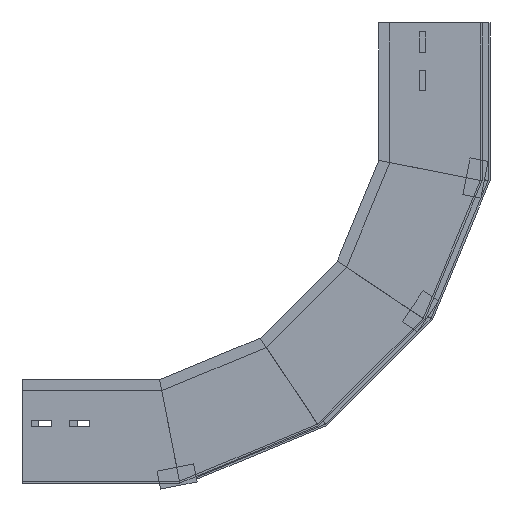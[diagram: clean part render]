
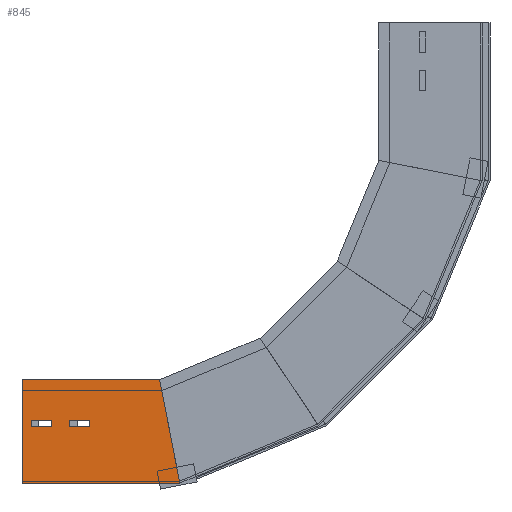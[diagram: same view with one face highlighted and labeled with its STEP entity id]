
A CAD part, left-side view. The second image highlights one B-rep face of the part: STEP entity #845.
In plain terms, the highlighted planar face has unit normal (-1, 0, 0) as drawn and (1, 0, 0) by its records, which use the part's own axes.
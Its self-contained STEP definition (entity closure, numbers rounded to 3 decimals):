
#11 = CARTESIAN_POINT ( 'NONE',  ( 0., 0., 0. ) ) ;
#44 = CARTESIAN_POINT ( 'NONE',  ( 0., 68.5, -31.835 ) ) ;
#48 = CARTESIAN_POINT ( 'NONE',  ( 0., 68.5, -9.835 ) ) ;
#59 = DIRECTION ( 'NONE',  ( 0., -1., 0. ) ) ;
#68 = CARTESIAN_POINT ( 'NONE',  ( 0., 112.5, 0. ) ) ;
#69 = CARTESIAN_POINT ( 'NONE',  ( 0., 61.5, -9.835 ) ) ;
#134 = ORIENTED_EDGE ( 'NONE', *, *, #178, .T. ) ;
#142 = EDGE_LOOP ( 'NONE', ( #691, #1266, #134, #1296 ) ) ;
#150 = VECTOR ( 'NONE', #177, 1000. ) ;
#158 = VERTEX_POINT ( 'NONE', #68 ) ;
#177 = DIRECTION ( 'NONE',  ( 0., -0.981, -0.195 ) ) ;
#178 = EDGE_CURVE ( 'NONE', #727, #1417, #768, .T. ) ;
#189 = CARTESIAN_POINT ( 'NONE',  ( 0., 0., 0. ) ) ;
#191 = DIRECTION ( 'NONE',  ( 0., 0., -1. ) ) ;
#224 = EDGE_CURVE ( 'NONE', #1595, #1412, #1263, .T. ) ;
#230 = CARTESIAN_POINT ( 'NONE',  ( 0., 0., -172.1 ) ) ;
#248 = CARTESIAN_POINT ( 'NONE',  ( 0., 0., 0. ) ) ;
#250 = VECTOR ( 'NONE', #1100, 1000. ) ;
#288 = DIRECTION ( 'NONE',  ( 0., -1., 0. ) ) ;
#302 = CARTESIAN_POINT ( 'NONE',  ( 0., 68.5, -73.505 ) ) ;
#321 = LINE ( 'NONE', #1195, #338 ) ;
#325 = CARTESIAN_POINT ( 'NONE',  ( 0., 112.5, 0. ) ) ;
#338 = VECTOR ( 'NONE', #191, 1000. ) ;
#470 = FACE_BOUND ( 'NONE', #577, .T. ) ;
#506 = DIRECTION ( 'NONE',  ( 0., 0., -1. ) ) ;
#507 = CARTESIAN_POINT ( 'NONE',  ( 0., 68.5, -51.505 ) ) ;
#525 = CARTESIAN_POINT ( 'NONE',  ( 0., 68.5, -51.505 ) ) ;
#541 = ORIENTED_EDGE ( 'NONE', *, *, #1790, .F. ) ;
#550 = EDGE_CURVE ( 'NONE', #1448, #830, #1352, .T. ) ;
#577 = EDGE_LOOP ( 'NONE', ( #725, #1095, #955, #1183 ) ) ;
#584 = DIRECTION ( 'NONE',  ( 0., 0., 1. ) ) ;
#623 = FACE_OUTER_BOUND ( 'NONE', #851, .T. ) ;
#638 = CARTESIAN_POINT ( 'NONE',  ( 0., 61.5, -51.505 ) ) ;
#656 = VERTEX_POINT ( 'NONE', #1398 ) ;
#675 = ORIENTED_EDGE ( 'NONE', *, *, #1782, .F. ) ;
#677 = VECTOR ( 'NONE', #1210, 1000. ) ;
#690 = CARTESIAN_POINT ( 'NONE',  ( 0., 68.5, -51.505 ) ) ;
#691 = ORIENTED_EDGE ( 'NONE', *, *, #550, .T. ) ;
#692 = AXIS2_PLACEMENT_3D ( 'NONE', #11, #1069, #584 ) ;
#695 = LINE ( 'NONE', #525, #1370 ) ;
#725 = ORIENTED_EDGE ( 'NONE', *, *, #1513, .T. ) ;
#727 = VERTEX_POINT ( 'NONE', #1822 ) ;
#734 = CARTESIAN_POINT ( 'NONE',  ( 0., 61.5, -51.505 ) ) ;
#766 = DIRECTION ( 'NONE',  ( 0., 1., 0. ) ) ;
#768 = LINE ( 'NONE', #44, #1149 ) ;
#776 = LINE ( 'NONE', #507, #250 ) ;
#789 = EDGE_CURVE ( 'NONE', #1417, #1448, #1206, .T. ) ;
#799 = VECTOR ( 'NONE', #288, 1000. ) ;
#816 = VERTEX_POINT ( 'NONE', #1467 ) ;
#830 = VERTEX_POINT ( 'NONE', #1795 ) ;
#841 = EDGE_CURVE ( 'NONE', #656, #1412, #1456, .T. ) ;
#845 = ADVANCED_FACE ( 'NONE', ( #470, #623, #1044 ), #1325, .F. ) ;
#851 = EDGE_LOOP ( 'NONE', ( #675, #541, #1617, #1160 ) ) ;
#852 = VERTEX_POINT ( 'NONE', #302 ) ;
#878 = VECTOR ( 'NONE', #1366, 1000. ) ;
#887 = DIRECTION ( 'NONE',  ( 0., 0., 1. ) ) ;
#888 = EDGE_CURVE ( 'NONE', #816, #992, #1175, .T. ) ;
#955 = ORIENTED_EDGE ( 'NONE', *, *, #1698, .T. ) ;
#992 = VERTEX_POINT ( 'NONE', #638 ) ;
#1016 = CARTESIAN_POINT ( 'NONE',  ( 0., 68.5, -73.505 ) ) ;
#1033 = CARTESIAN_POINT ( 'NONE',  ( 0., 32.93, -165.55 ) ) ;
#1044 = FACE_BOUND ( 'NONE', #142, .T. ) ;
#1069 = DIRECTION ( 'NONE',  ( -1., 0., 0. ) ) ;
#1095 = ORIENTED_EDGE ( 'NONE', *, *, #1459, .T. ) ;
#1100 = DIRECTION ( 'NONE',  ( 0., 0., -1. ) ) ;
#1149 = VECTOR ( 'NONE', #59, 1000. ) ;
#1160 = ORIENTED_EDGE ( 'NONE', *, *, #841, .F. ) ;
#1175 = LINE ( 'NONE', #734, #1487 ) ;
#1183 = ORIENTED_EDGE ( 'NONE', *, *, #888, .T. ) ;
#1184 = VECTOR ( 'NONE', #506, 1000. ) ;
#1195 = CARTESIAN_POINT ( 'NONE',  ( 0., 68.5, -9.835 ) ) ;
#1206 = LINE ( 'NONE', #1765, #1338 ) ;
#1210 = DIRECTION ( 'NONE',  ( 0., 0., -1. ) ) ;
#1233 = LINE ( 'NONE', #189, #1561 ) ;
#1236 = CARTESIAN_POINT ( 'NONE',  ( 0., 61.5, -31.835 ) ) ;
#1263 = LINE ( 'NONE', #1533, #1184 ) ;
#1266 = ORIENTED_EDGE ( 'NONE', *, *, #1293, .T. ) ;
#1293 = EDGE_CURVE ( 'NONE', #830, #727, #321, .T. ) ;
#1296 = ORIENTED_EDGE ( 'NONE', *, *, #789, .T. ) ;
#1308 = LINE ( 'NONE', #1016, #799 ) ;
#1325 = PLANE ( 'NONE',  #692 ) ;
#1338 = VECTOR ( 'NONE', #887, 1000. ) ;
#1352 = LINE ( 'NONE', #48, #878 ) ;
#1366 = DIRECTION ( 'NONE',  ( 0., 1., 0. ) ) ;
#1370 = VECTOR ( 'NONE', #1717, 1000. ) ;
#1377 = LINE ( 'NONE', #325, #677 ) ;
#1398 = CARTESIAN_POINT ( 'NONE',  ( 0., 112.5, -149.722 ) ) ;
#1412 = VERTEX_POINT ( 'NONE', #230 ) ;
#1417 = VERTEX_POINT ( 'NONE', #1236 ) ;
#1448 = VERTEX_POINT ( 'NONE', #69 ) ;
#1456 = LINE ( 'NONE', #1033, #150 ) ;
#1459 = EDGE_CURVE ( 'NONE', #1880, #852, #776, .T. ) ;
#1467 = CARTESIAN_POINT ( 'NONE',  ( 0., 61.5, -73.505 ) ) ;
#1479 = DIRECTION ( 'NONE',  ( 0., 0., 1. ) ) ;
#1487 = VECTOR ( 'NONE', #1479, 1000. ) ;
#1513 = EDGE_CURVE ( 'NONE', #992, #1880, #695, .T. ) ;
#1533 = CARTESIAN_POINT ( 'NONE',  ( 0., 0., 0. ) ) ;
#1561 = VECTOR ( 'NONE', #766, 1000. ) ;
#1595 = VERTEX_POINT ( 'NONE', #248 ) ;
#1617 = ORIENTED_EDGE ( 'NONE', *, *, #224, .T. ) ;
#1698 = EDGE_CURVE ( 'NONE', #852, #816, #1308, .T. ) ;
#1717 = DIRECTION ( 'NONE',  ( 0., 1., 0. ) ) ;
#1765 = CARTESIAN_POINT ( 'NONE',  ( 0., 61.5, -9.835 ) ) ;
#1782 = EDGE_CURVE ( 'NONE', #158, #656, #1377, .T. ) ;
#1790 = EDGE_CURVE ( 'NONE', #1595, #158, #1233, .T. ) ;
#1795 = CARTESIAN_POINT ( 'NONE',  ( 0., 68.5, -9.835 ) ) ;
#1822 = CARTESIAN_POINT ( 'NONE',  ( 0., 68.5, -31.835 ) ) ;
#1880 = VERTEX_POINT ( 'NONE', #690 ) ;
